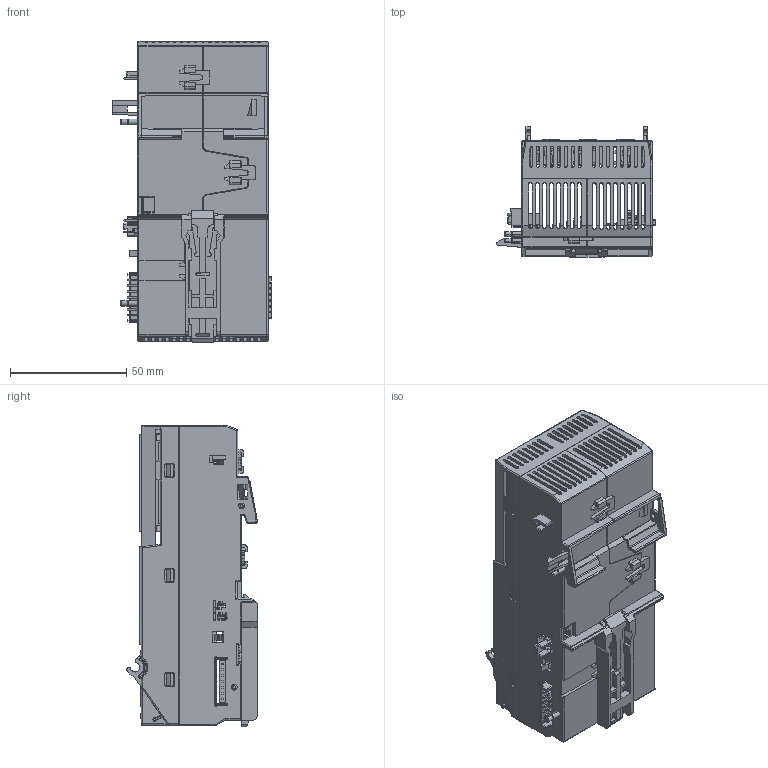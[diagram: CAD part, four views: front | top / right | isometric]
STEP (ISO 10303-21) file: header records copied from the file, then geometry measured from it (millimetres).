
FILE_DESCRIPTION((''),'2;1');
FILE_NAME('2036336','2024-03-21T13:02:09',('t.hampe'),(''),'CREO PARAMETRIC BY PTC INC, 2019292','CREO PARAMETRIC BY PTC INC, 2019292','');
FILE_SCHEMA(('AUTOMOTIVE_DESIGN { 1 0 10303 214 1 1 1 1 }'));
Products named in the file (1): 2036336
Bounding box: 68.35 x 55.97 x 129.52 mm (x, y, z)
Volume: 57010.9 mm3; surface area: 90020.7 mm2
Topology: 17 solids, 17 shells, 7900 faces, 22512 edges, 14646 vertices
Faces by surface type: plane 5985, cylinder 1484, cone 241, torus 93, sphere 36, bspline 35, extrusion 26
Entity records: 398406 total; most frequent: CARTESIAN_POINT 66346, ORIENTED_EDGE 45012, DIRECTION 39391, PRESENTATION_STYLE_ASSIGNMENT 30450, STYLED_ITEM 22550, CURVE_STYLE 22533, EDGE_CURVE 22506, VECTOR 19243
